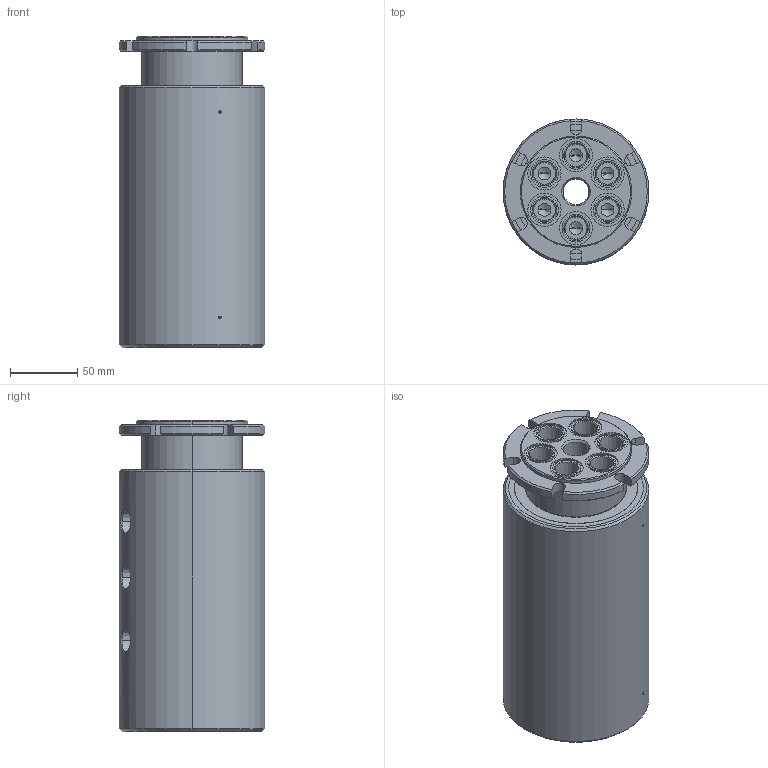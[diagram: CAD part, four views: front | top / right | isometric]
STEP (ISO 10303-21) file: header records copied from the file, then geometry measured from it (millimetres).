
FILE_DESCRIPTION (( 'STEP AP214' ), '1' );
FILE_NAME ('GP(M)-361.STEP', '2013-02-05T23:04:03', ( '' ), ( '' ), 'SwSTEP 2.0', 'SolidWorks 2011', '' );
FILE_SCHEMA (( 'AUTOMOTIVE_DESIGN' ));
Length unit declared in the file: inch
Products named in the file (1): GP(M)-361
Bounding box: 107.95 x 107.95 x 230.81 mm (x, y, z)
Volume: 1811159.6 mm3; surface area: 137354.5 mm2
Topology: 1 solids, 1 shells, 298 faces, 708 edges, 426 vertices
Faces by surface type: cylinder 120, cone 108, plane 56, bspline 12, torus 2
Entity records: 10254 total; most frequent: CARTESIAN_POINT 3101, DIRECTION 1473, ORIENTED_EDGE 1324, EDGE_CURVE 662, AXIS2_PLACEMENT_3D 604, VERTEX_POINT 426, EDGE_LOOP 360, CIRCLE 317
